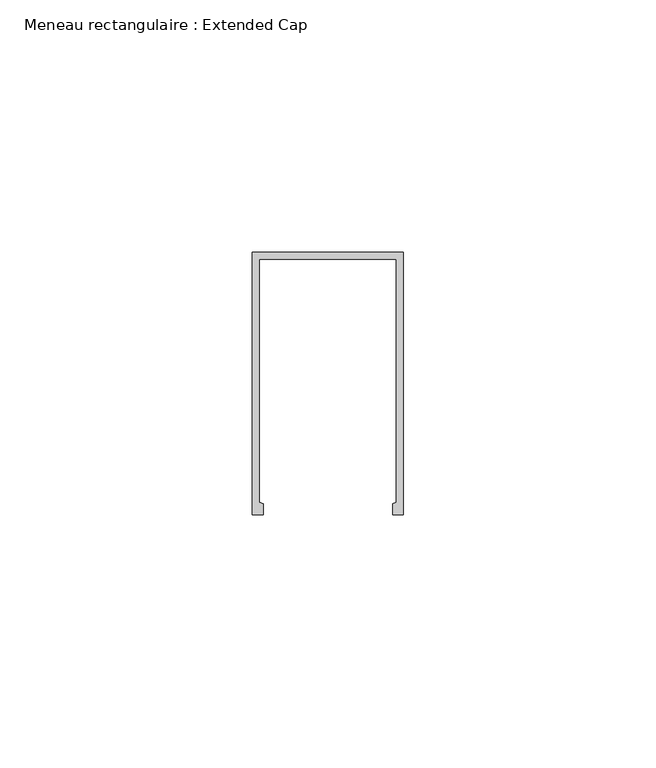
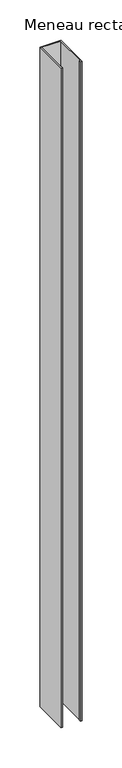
"""IFC4 building model written with IfcOpenShell, lengths in millimetres: member geometry, Meneau rectangulaire : Extended Cap."""

from ifc_helpers import new_model, si_unit, frame, origin, place, context, project, spatial, polyline, outline, extrude, source, transform, mapped, element, save


def meneau_rectangulaire_extended_cap_cd033b6a(model_context):
    return source(origin(), model_context, "Body", "SweptSolid", [
        extrude(outline(polyline([(-30.0, 58.1007192), (0.0, 58.1007192), (0.0, 6.0), (-2.149007, 6.0), (-2.149007, 8.2419727), (-1.4, 8.4826662), (-1.4, 56.7007192), (-28.6, 56.7007192), (-28.6, 8.4826662), (-27.850993, 8.2419727), (-27.850993, 6.0), (-30.0, 6.0), (-30.0, 58.1007192)])), frame((0.0, 0.0, -1000.0), z_axis=(0.0, 0.0, 1.0), x_axis=(1.0, 0.0, 0.0)), (0.0, 0.0, 1.0), 1000.0),
    ])


if __name__ == "__main__":
    model = new_model("IFC4")
    model_context = context("Model", 3, world=origin())
    ifc_project = project(units=[si_unit("LENGTHUNIT", "METRE", prefix="MILLI")], contexts=[model_context])
    site = spatial("IfcSite", under=ifc_project)
    building = spatial("IfcBuilding", under=site)
    placement = place(None, origin())
    meneau_rectangulaire_extended_cap_shape = meneau_rectangulaire_extended_cap_cd033b6a(model_context)
    element("IfcMember", 1, ObjectType="Meneau rectangulaire : Extended Cap", at=placement, inside=building, context=model_context, shape_type="MappedRepresentation", body=[
        mapped(meneau_rectangulaire_extended_cap_shape, transform((0.0, 0.0, 0.0), x_axis=(1.0, 0.0, 0.0), y_axis=(0.0, 1.0, 0.0), z_axis=(0.0, 0.0, 1.0))),
    ])
    save(model, "model.ifc")
